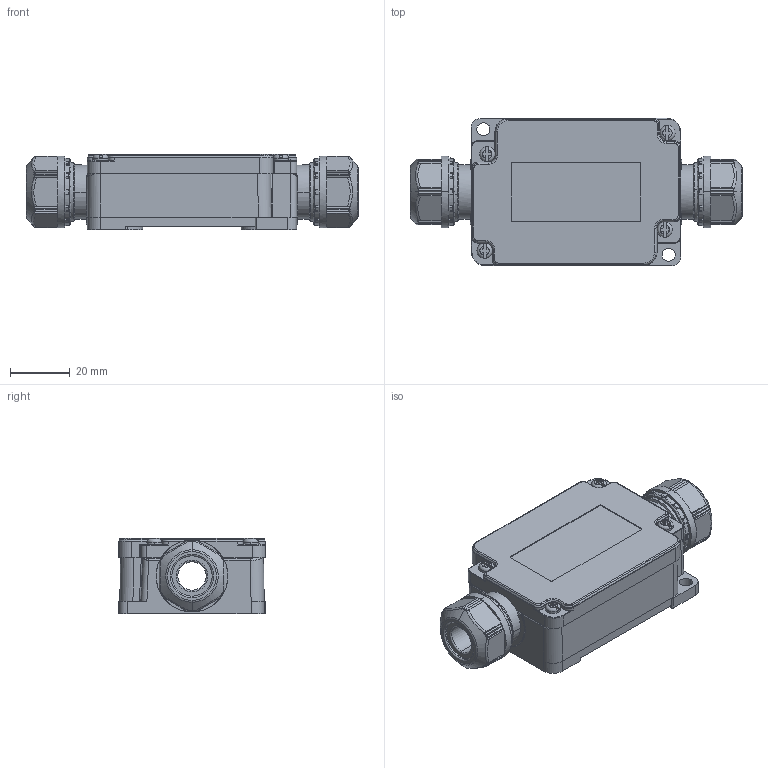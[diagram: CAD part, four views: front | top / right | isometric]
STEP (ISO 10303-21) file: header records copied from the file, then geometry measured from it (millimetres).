
FILE_DESCRIPTION(('Creo Elements/Direct Modeling STEP Export'),'2;1');
FILE_NAME('H19-0012-CL901-00_JB-WSB049070.stp','2019-12-25T13:01:42',(''),(''),'Creo Elements/Direct Modeling STEP processor for AP214 (Solid Model)','Creo Elements/Direct Modeling 20.0C 26-Jan-2018 (C) Parametric Technology GmbH','');
FILE_SCHEMA(('AUTOMOTIVE_DESIGN { 1 0 10303 214 1 1 1 1 }'));
Length unit declared in the file: millimetre
Products named in the file (7): JB-W3※※_フタ固定ねじ.2; JB-WST306_フタ; JB-WSB049070_フタ部; OA-W1609_ゴムブッシュ; JB-WSB049070_本体; JB-WSB049070_本体部; H19-0012-CL901-00_JB-WSB049070
Assembly tree (10 placements, depth 3):
  H19-0012-CL901-00_JB-WSB049070
    JB-WSB049070_本体部
      JB-WSB049070_本体
      OA-W1609_ゴムブッシュ  x2
    JB-WSB049070_フタ部
      JB-WST306_フタ
      JB-W3※※_フタ固定ねじ.2  x4
Bounding box: 111.06 x 49.2 x 25.1 mm (x, y, z)
Volume: 46536.2 mm3; surface area: 35079 mm2
Topology: 8 solids, 8 shells, 1437 faces, 3603 edges, 2171 vertices
Faces by surface type: plane 547, cylinder 538, torus 150, bspline 82, cone 72, sphere 48
Entity records: 45901 total; most frequent: CARTESIAN_POINT 15402, ORIENTED_EDGE 6526, DIRECTION 6170, EDGE_CURVE 3263, AXIS2_PLACEMENT_3D 2324, VERTEX_POINT 1983, VECTOR 1522, LINE 1522
